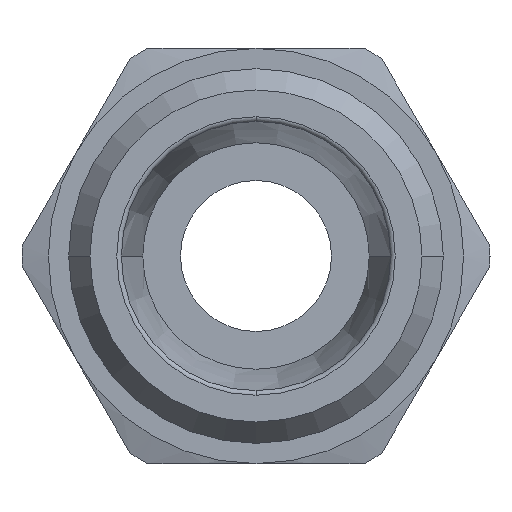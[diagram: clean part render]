
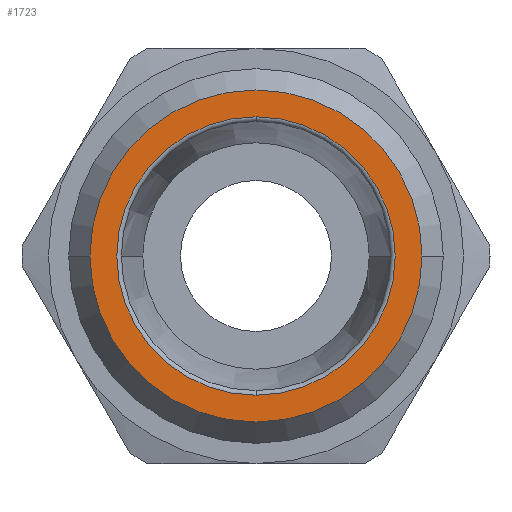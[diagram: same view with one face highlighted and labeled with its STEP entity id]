
A CAD part, left-side view. The second image highlights one B-rep face of the part: STEP entity #1723.
In plain terms, the highlighted planar face has unit normal (-1, 0, 0) as drawn and (0, 0, 1) by its records, which use the part's own axes.
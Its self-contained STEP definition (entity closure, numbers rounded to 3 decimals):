
#950=CARTESIAN_POINT('',(0.,-8.8,17.0));
#951=VERTEX_POINT('',#950);
#958=CARTESIAN_POINT('',(0.,8.8,17.));
#959=VERTEX_POINT('',#958);
#960=CARTESIAN_POINT('',(0.,0.,17.));
#961=DIRECTION('',(0.0,0.0,-1.0));
#962=DIRECTION('',(0.0,-1.0,0.0));
#963=AXIS2_PLACEMENT_3D('',#960,#961,#962);
#964=CIRCLE('',#963,8.8);
#965=EDGE_CURVE('',#951,#959,#964,.T.);
#1023=CARTESIAN_POINT('',(7.377,0.,17.0));
#1024=VERTEX_POINT('',#1023);
#1042=CARTESIAN_POINT('',(-7.377,0.,17.0));
#1043=VERTEX_POINT('',#1042);
#1051=CARTESIAN_POINT('',(0.,-7.377,17.0));
#1052=VERTEX_POINT('',#1051);
#1053=CARTESIAN_POINT('',(0.,0.,17.0));
#1054=DIRECTION('',(0.0,0.0,1.0));
#1055=DIRECTION('',(0.0,1.0,0.0));
#1056=AXIS2_PLACEMENT_3D('',#1053,#1054,#1055);
#1057=CIRCLE('',#1056,7.377);
#1058=EDGE_CURVE('',#1043,#1052,#1057,.T.);
#1060=CARTESIAN_POINT('',(0.,0.,17.0));
#1061=DIRECTION('',(0.0,0.0,1.0));
#1062=DIRECTION('',(0.0,1.0,0.0));
#1063=AXIS2_PLACEMENT_3D('',#1060,#1061,#1062);
#1064=CIRCLE('',#1063,7.377);
#1065=EDGE_CURVE('',#1052,#1024,#1064,.T.);
#1684=CARTESIAN_POINT('',(0.,0.,17.0));
#1685=DIRECTION('',(0.0,0.0,1.0));
#1686=DIRECTION('',(0.0,1.0,0.0));
#1687=AXIS2_PLACEMENT_3D('',#1684,#1685,#1686);
#1688=CIRCLE('',#1687,7.377);
#1689=EDGE_CURVE('',#1024,#1043,#1688,.T.);
#1703=CARTESIAN_POINT('',(0.,-7.988,17.0));
#1704=DIRECTION('',(0.0,0.0,1.0));
#1705=DIRECTION('',(-1.0,0.0,0.0));
#1706=AXIS2_PLACEMENT_3D('',#1703,#1704,#1705);
#1707=PLANE('',#1706);
#1708=ORIENTED_EDGE('',*,*,#965,.F.);
#1709=CARTESIAN_POINT('',(0.,0.,17.));
#1710=DIRECTION('',(0.0,0.0,-1.0));
#1711=DIRECTION('',(0.0,-1.0,0.0));
#1712=AXIS2_PLACEMENT_3D('',#1709,#1710,#1711);
#1713=CIRCLE('',#1712,8.8);
#1714=EDGE_CURVE('',#959,#951,#1713,.T.);
#1715=ORIENTED_EDGE('',*,*,#1714,.F.);
#1716=EDGE_LOOP('',(#1708,#1715));
#1717=FACE_OUTER_BOUND('',#1716,.T.);
#1718=ORIENTED_EDGE('',*,*,#1065,.F.);
#1719=ORIENTED_EDGE('',*,*,#1058,.F.);
#1720=ORIENTED_EDGE('',*,*,#1689,.F.);
#1721=EDGE_LOOP('',(#1718,#1719,#1720));
#1722=FACE_BOUND('',#1721,.T.);
#1723=ADVANCED_FACE('',(#1717,#1722),#1707,.T.);
